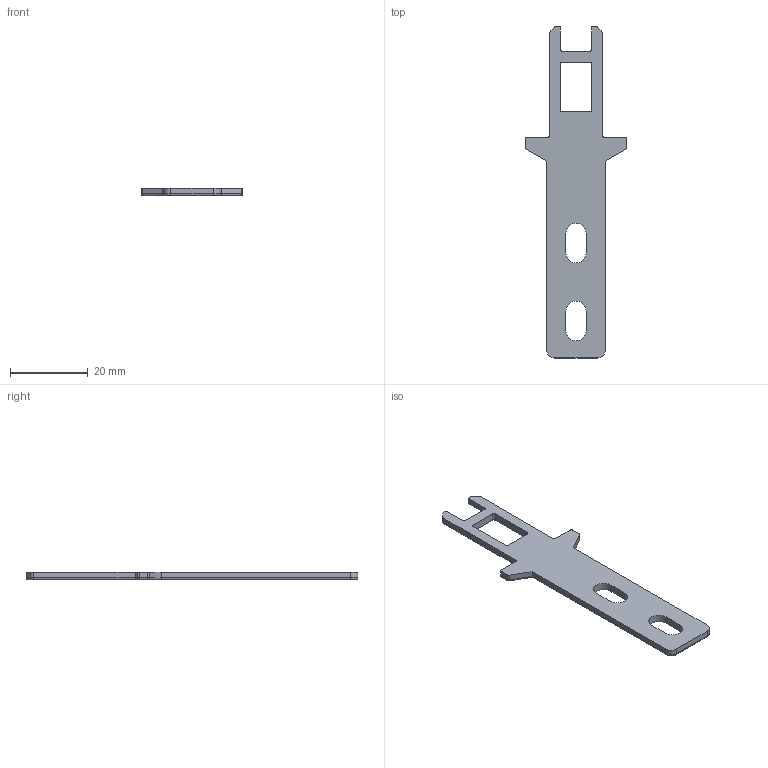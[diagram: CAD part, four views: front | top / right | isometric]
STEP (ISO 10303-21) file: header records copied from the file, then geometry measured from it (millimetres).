
FILE_DESCRIPTION((''),'2;1');
FILE_NAME('TIAO-YAOSHI-ZHI','2022-03-05T',('Administrator'),(''),'PRO/ENGINEER BY PARAMETRIC TECHNOLOGY CORPORATION, 2010280','PRO/ENGINEER BY PARAMETRIC TECHNOLOGY CORPORATION, 2010280','');
FILE_SCHEMA(('CONFIG_CONTROL_DESIGN'));
Length unit declared in the file: millimetre
Products named in the file (1): TIAO-YAOSHI-ZHI
Bounding box: 26 x 85.2 x 2 mm (x, y, z)
Volume: 2055.5 mm3; surface area: 2656.1 mm2
Topology: 1 solids, 1 shells, 86 faces, 212 edges, 128 vertices
Faces by surface type: cylinder 42, plane 28, torus 9, sphere 6, bspline 1
Entity records: 2593 total; most frequent: DIRECTION 470, CARTESIAN_POINT 451, ORIENTED_EDGE 424, EDGE_CURVE 212, AXIS2_PLACEMENT_3D 175, VERTEX_POINT 128, VECTOR 120, LINE 120
